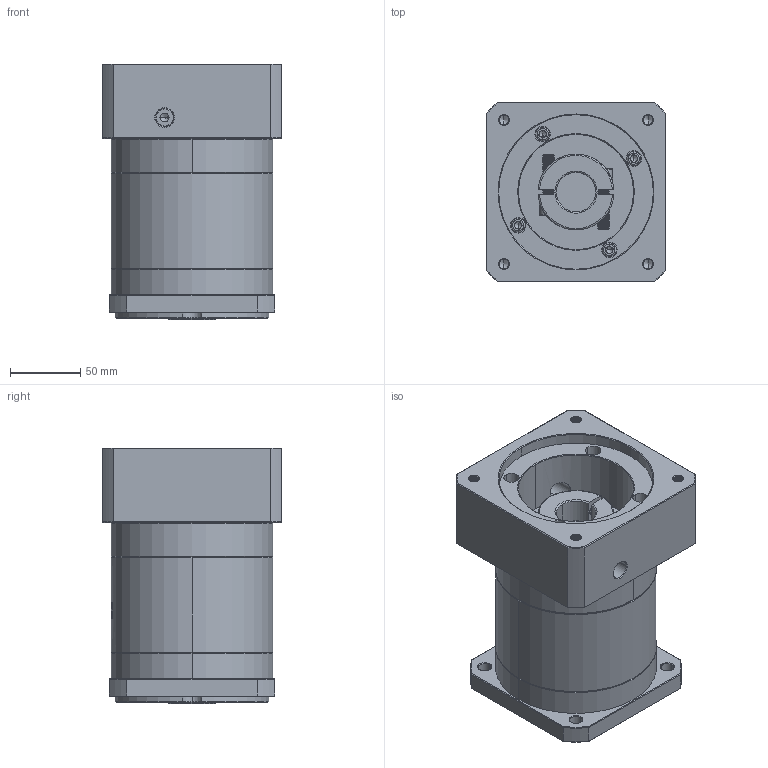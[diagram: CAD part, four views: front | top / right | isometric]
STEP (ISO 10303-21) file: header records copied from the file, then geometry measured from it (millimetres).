
FILE_DESCRIPTION (( 'STEP AP214' ), '1' );
FILE_NAME ('ZF120A-K25-L2-P2-28-110-145-M8.step', '2023-08-27T04:52:22', ( '' ), ( '' ), 'SwSTEP 2.0', 'SolidWorks 2016', '' );
FILE_SCHEMA (( 'AUTOMOTIVE_DESIGN' ));
Length unit declared in the file: millimetre
Products named in the file (1): ZF120A-K25-L2-P2-28-110-145-M8
Bounding box: 128 x 128 x 182 mm (x, y, z)
Volume: 1906044.3 mm3; surface area: 188801.3 mm2
Topology: 6 solids, 6 shells, 2158 faces, 5724 edges, 3670 vertices
Faces by surface type: plane 1026, bspline 410, cylinder 387, cone 315, torus 20
Entity records: 116850 total; most frequent: CARTESIAN_POINT 44736, ORIENTED_EDGE 11392, DIRECTION 8261, EDGE_CURVE 5696, VERTEX_POINT 3670, VECTOR 3035, LINE 3035, AXIS2_PLACEMENT_3D 2613
